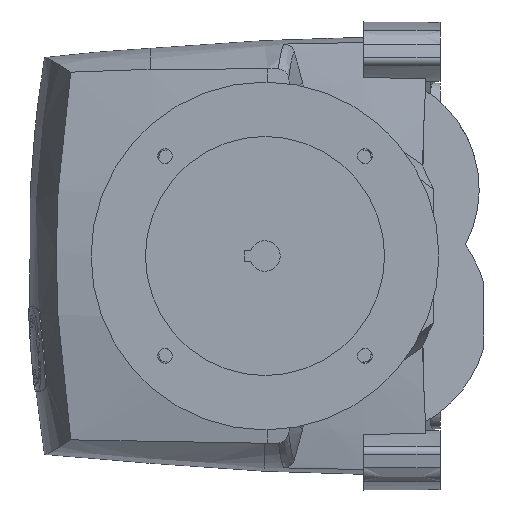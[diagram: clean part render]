
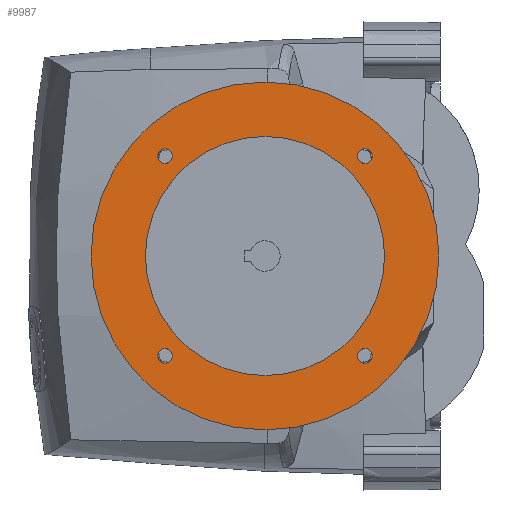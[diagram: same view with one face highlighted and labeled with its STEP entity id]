
A CAD part, left-side view. The second image highlights one B-rep face of the part: STEP entity #9987.
In plain terms, the highlighted planar face has unit normal (-1, 0, 0).
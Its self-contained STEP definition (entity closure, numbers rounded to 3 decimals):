
#1907=CARTESIAN_POINT('',(-137.5,55.538,-45.962));
#1908=DIRECTION('',(1.,0.,0.));
#1909=DIRECTION('',(0.,-1.,0.));
#1910=AXIS2_PLACEMENT_3D('',#1907,#1908,#1909);
#1912=CARTESIAN_POINT('',(-137.5,55.538,-45.962));
#1913=DIRECTION('',(1.,0.,0.));
#1914=DIRECTION('',(0.,1.,0.));
#1915=AXIS2_PLACEMENT_3D('',#1912,#1913,#1914);
#1917=CARTESIAN_POINT('',(-137.5,55.538,45.962));
#1918=DIRECTION('',(1.,0.,0.));
#1919=DIRECTION('',(0.,-1.,0.));
#1920=AXIS2_PLACEMENT_3D('',#1917,#1918,#1919);
#1922=CARTESIAN_POINT('',(-137.5,55.538,45.962));
#1923=DIRECTION('',(1.,0.,0.));
#1924=DIRECTION('',(0.,1.,0.));
#1925=AXIS2_PLACEMENT_3D('',#1922,#1923,#1924);
#1927=CARTESIAN_POINT('',(-137.5,147.462,-45.962));
#1928=DIRECTION('',(1.,0.,0.));
#1929=DIRECTION('',(0.,-1.,0.));
#1930=AXIS2_PLACEMENT_3D('',#1927,#1928,#1929);
#1932=CARTESIAN_POINT('',(-137.5,147.462,-45.962));
#1933=DIRECTION('',(1.,0.,0.));
#1934=DIRECTION('',(0.,1.,0.));
#1935=AXIS2_PLACEMENT_3D('',#1932,#1933,#1934);
#1937=CARTESIAN_POINT('',(-137.5,147.462,45.962));
#1938=DIRECTION('',(1.,0.,0.));
#1939=DIRECTION('',(0.,-1.,0.));
#1940=AXIS2_PLACEMENT_3D('',#1937,#1938,#1939);
#1942=CARTESIAN_POINT('',(-137.5,147.462,45.962));
#1943=DIRECTION('',(1.,0.,0.));
#1944=DIRECTION('',(0.,1.,0.));
#1945=AXIS2_PLACEMENT_3D('',#1942,#1943,#1944);
#1947=CARTESIAN_POINT('',(-137.5,101.5,0.));
#1948=DIRECTION('',(-1.,0.,0.));
#1949=DIRECTION('',(0.,0.,-1.));
#1950=AXIS2_PLACEMENT_3D('',#1947,#1948,#1949);
#1952=CARTESIAN_POINT('',(-137.5,101.5,0.));
#1953=DIRECTION('',(-1.,0.,0.));
#1954=DIRECTION('',(0.,0.,1.));
#1955=AXIS2_PLACEMENT_3D('',#1952,#1953,#1954);
#1957=CARTESIAN_POINT('',(-137.5,101.5,0.));
#1958=DIRECTION('',(1.,0.,0.));
#1959=DIRECTION('',(0.,0.,-1.));
#1960=AXIS2_PLACEMENT_3D('',#1957,#1958,#1959);
#1962=CARTESIAN_POINT('',(-137.5,101.5,0.));
#1963=DIRECTION('',(1.,0.,0.));
#1964=DIRECTION('',(0.,0.,1.));
#1965=AXIS2_PLACEMENT_3D('',#1962,#1963,#1964);
#6872=CARTESIAN_POINT('',(-137.5,101.5,79.99));
#6874=VERTEX_POINT('',#6872);
#6876=CARTESIAN_POINT('',(-137.5,101.5,-79.989));
#6877=VERTEX_POINT('',#6876);
#6888=CARTESIAN_POINT('',(-137.5,101.5,-54.99));
#6889=CARTESIAN_POINT('',(-137.5,101.5,54.99));
#6890=VERTEX_POINT('',#6888);
#6891=VERTEX_POINT('',#6889);
#7104=CARTESIAN_POINT('',(-137.5,144.062,-45.962));
#7105=CARTESIAN_POINT('',(-137.5,150.862,-45.962));
#7106=VERTEX_POINT('',#7104);
#7107=VERTEX_POINT('',#7105);
#7108=CARTESIAN_POINT('',(-137.5,52.138,-45.962));
#7109=CARTESIAN_POINT('',(-137.5,58.938,-45.962));
#7110=VERTEX_POINT('',#7108);
#7111=VERTEX_POINT('',#7109);
#7112=CARTESIAN_POINT('',(-137.5,52.138,45.962));
#7113=CARTESIAN_POINT('',(-137.5,58.938,45.962));
#7114=VERTEX_POINT('',#7112);
#7115=VERTEX_POINT('',#7113);
#7116=CARTESIAN_POINT('',(-137.5,144.062,45.962));
#7117=CARTESIAN_POINT('',(-137.5,150.862,45.962));
#7118=VERTEX_POINT('',#7116);
#7119=VERTEX_POINT('',#7117);
#9948=CARTESIAN_POINT('',(-137.5,101.5,0.));
#9949=DIRECTION('',(1.,0.,0.));
#9950=DIRECTION('',(0.,0.,-1.));
#9951=AXIS2_PLACEMENT_3D('',#9948,#9949,#9950);
#9952=PLANE('',#9951);
#9953=ORIENTED_EDGE('',*,*,#9927,.F.);
#9954=ORIENTED_EDGE('',*,*,#9942,.F.);
#9955=EDGE_LOOP('',(#9953,#9954));
#9956=FACE_OUTER_BOUND('',#9955,.F.);
#9958=ORIENTED_EDGE('',*,*,#9957,.F.);
#9960=ORIENTED_EDGE('',*,*,#9959,.F.);
#9961=EDGE_LOOP('',(#9958,#9960));
#9962=FACE_BOUND('',#9961,.F.);
#9964=ORIENTED_EDGE('',*,*,#9963,.F.);
#9966=ORIENTED_EDGE('',*,*,#9965,.F.);
#9967=EDGE_LOOP('',(#9964,#9966));
#9968=FACE_BOUND('',#9967,.F.);
#9970=ORIENTED_EDGE('',*,*,#9969,.F.);
#9972=ORIENTED_EDGE('',*,*,#9971,.F.);
#9973=EDGE_LOOP('',(#9970,#9972));
#9974=FACE_BOUND('',#9973,.F.);
#9976=ORIENTED_EDGE('',*,*,#9975,.F.);
#9978=ORIENTED_EDGE('',*,*,#9977,.F.);
#9979=EDGE_LOOP('',(#9976,#9978));
#9980=FACE_BOUND('',#9979,.F.);
#9982=ORIENTED_EDGE('',*,*,#9981,.F.);
#9984=ORIENTED_EDGE('',*,*,#9983,.F.);
#9985=EDGE_LOOP('',(#9982,#9984));
#9986=FACE_BOUND('',#9985,.F.);
#9987=ADVANCED_FACE('',(#9956,#9962,#9968,#9974,#9980,#9986),#9952,.F.);
#1911=CIRCLE('',#1910,3.4);
#1916=CIRCLE('',#1915,3.4);
#1921=CIRCLE('',#1920,3.4);
#1926=CIRCLE('',#1925,3.4);
#1931=CIRCLE('',#1930,3.4);
#1936=CIRCLE('',#1935,3.4);
#1941=CIRCLE('',#1940,3.4);
#1946=CIRCLE('',#1945,3.4);
#1951=CIRCLE('',#1950,79.989);
#1956=CIRCLE('',#1955,79.989);
#1961=CIRCLE('',#1960,54.99);
#1966=CIRCLE('',#1965,54.99);
#9927=EDGE_CURVE('',#6877,#6874,#1951,.T.);
#9942=EDGE_CURVE('',#6874,#6877,#1956,.T.);
#9957=EDGE_CURVE('',#7110,#7111,#1911,.T.);
#9959=EDGE_CURVE('',#7111,#7110,#1916,.T.);
#9963=EDGE_CURVE('',#7114,#7115,#1921,.T.);
#9965=EDGE_CURVE('',#7115,#7114,#1926,.T.);
#9969=EDGE_CURVE('',#7106,#7107,#1931,.T.);
#9971=EDGE_CURVE('',#7107,#7106,#1936,.T.);
#9975=EDGE_CURVE('',#7118,#7119,#1941,.T.);
#9977=EDGE_CURVE('',#7119,#7118,#1946,.T.);
#9981=EDGE_CURVE('',#6890,#6891,#1961,.T.);
#9983=EDGE_CURVE('',#6891,#6890,#1966,.T.);
